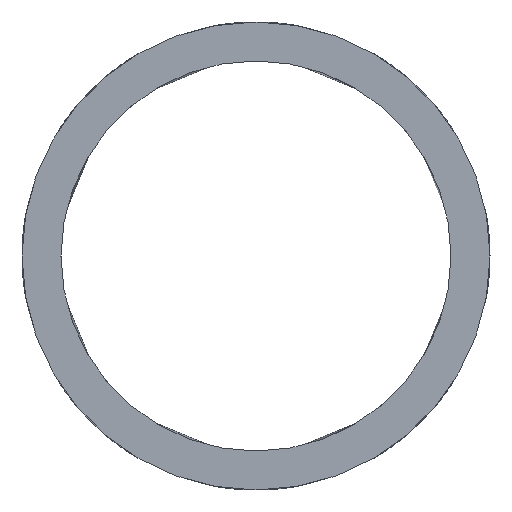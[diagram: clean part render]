
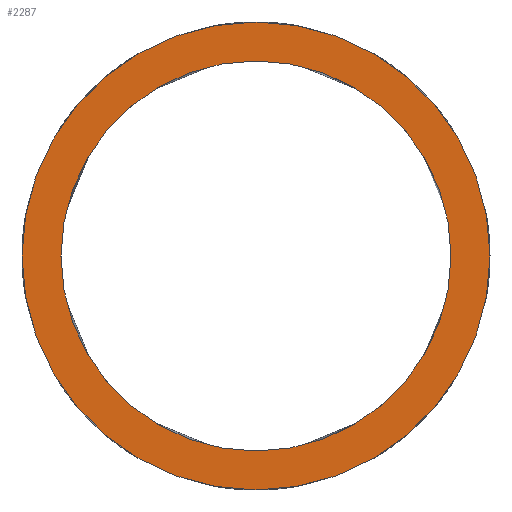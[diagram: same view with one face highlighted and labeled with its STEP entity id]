
A CAD part, left-side view. The second image highlights one B-rep face of the part: STEP entity #2287.
In plain terms, the highlighted planar face has unit normal (-1, 0, 0).
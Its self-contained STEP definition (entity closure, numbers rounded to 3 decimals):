
#2287=ADVANCED_FACE('Pad.1',(#5441,#5442),#5443,.F.);
#5441=FACE_OUTER_BOUND('',#9249,.T.);
#5442=FACE_BOUND('',#9250,.T.);
#5443=PLANE('',#9251);
#9249=EDGE_LOOP('',(#17465,#17466));
#9250=EDGE_LOOP('',(#17467,#17468));
#9251=AXIS2_PLACEMENT_3D('',#17469,#17470,#17471);
#17465=ORIENTED_EDGE('',*,*,#25581,.F.);
#17466=ORIENTED_EDGE('',*,*,#26081,.F.);
#17467=ORIENTED_EDGE('',*,*,#25793,.T.);
#17468=ORIENTED_EDGE('',*,*,#25087,.T.);
#17469=CARTESIAN_POINT('',(-12.0,0.0,0.0));
#17470=DIRECTION('',(1.0,0.0,0.0));
#17471=DIRECTION('',(0.0,1.0,0.0));
#25087=EDGE_CURVE('',#31409,#31407,#31410,.T.);
#25581=EDGE_CURVE('',#32081,#32083,#32084,.T.);
#25793=EDGE_CURVE('',#31407,#31409,#32400,.T.);
#26081=EDGE_CURVE('',#32083,#32081,#32828,.T.);
#31407=VERTEX_POINT('',#57339);
#31409=VERTEX_POINT('',#57342);
#31410=CIRCLE('',#57343,12.5);
#32081=VERTEX_POINT('',#63609);
#32083=VERTEX_POINT('',#63612);
#32084=CIRCLE('',#63613,15.0);
#32400=CIRCLE('',#67467,12.5);
#32828=CIRCLE('',#72831,15.0);
#57339=CARTESIAN_POINT('',(-12.0,-12.5,0.));
#57342=CARTESIAN_POINT('',(-12.0,12.5,0.0));
#57343=AXIS2_PLACEMENT_3D('',#79410,#79411,#79412);
#63609=CARTESIAN_POINT('',(-12.0,15.0,0.0));
#63612=CARTESIAN_POINT('',(-12.0,-15.0,0.));
#63613=AXIS2_PLACEMENT_3D('',#79558,#79559,#79560);
#67467=AXIS2_PLACEMENT_3D('',#79563,#79564,#79565);
#72831=AXIS2_PLACEMENT_3D('',#79573,#79574,#79575);
#79410=CARTESIAN_POINT('',(-12.0,0.0,0.0));
#79411=DIRECTION('',(1.0,0.0,0.0));
#79412=DIRECTION('',(0.0,1.0,0.0));
#79558=CARTESIAN_POINT('',(-12.0,0.0,0.0));
#79559=DIRECTION('',(1.0,0.0,0.0));
#79560=DIRECTION('',(0.0,1.0,0.0));
#79563=CARTESIAN_POINT('',(-12.0,0.0,0.0));
#79564=DIRECTION('',(1.0,0.0,0.0));
#79565=DIRECTION('',(0.0,1.0,0.0));
#79573=CARTESIAN_POINT('',(-12.0,0.0,0.0));
#79574=DIRECTION('',(1.0,0.0,0.0));
#79575=DIRECTION('',(0.0,1.0,0.0));
